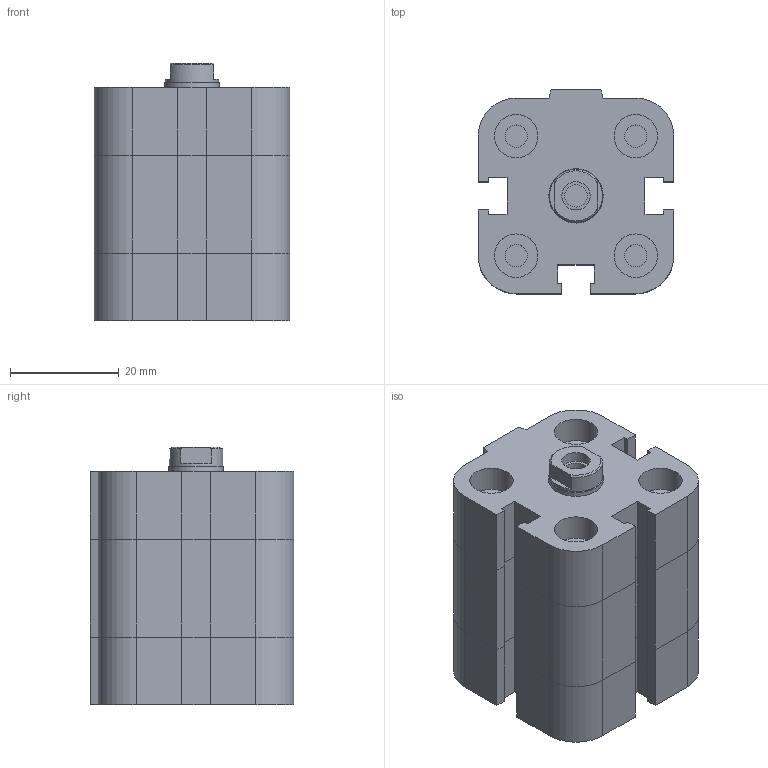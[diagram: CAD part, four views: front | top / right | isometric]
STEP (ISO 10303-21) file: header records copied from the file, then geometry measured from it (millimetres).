
FILE_DESCRIPTION((''),'2;1');
FILE_NAME('I:\Area Tecnica\Disegni\VARIE-3D\Componenti\EUROPE\15##_###_####_01_#\1581_20_0005_01_1.stp','2008-12-19T15:38:44',('rivolro1'),(''),'Autodesk Inventor 2009','Autodesk Inventor 2009','');
FILE_SCHEMA(('AUTOMOTIVE_DESIGN { 1 0 10303 214 1 1 1 1 }'));
Length unit declared in the file: millimetre
Products named in the file (3): 1581_20_0005_01_1; 1581_20_0005_01_1_C; 1561_20_0005_01_1_S
Assembly tree (2 placements, depth 2):
  1581_20_0005_01_1
    1581_20_0005_01_1_C
    1561_20_0005_01_1_S
Bounding box: 36 x 37.5 x 47.5 mm (x, y, z)
Volume: 46742.8 mm3; surface area: 14575.3 mm2
Topology: 2 solids, 2 shells, 163 faces, 349 edges, 211 vertices
Faces by surface type: plane 112, bspline 26, cylinder 22, cone 3
Full cylindrical faces by diameter (mm): 4.134 x4, 8 x4, 9.8 x1, 10 x1
Entity records: 4455 total; most frequent: CARTESIAN_POINT 952, DIRECTION 662, ORIENTED_EDGE 630, EDGE_CURVE 315, VECTOR 244, LINE 244, AXIS2_PLACEMENT_3D 209, EDGE_LOOP 208
